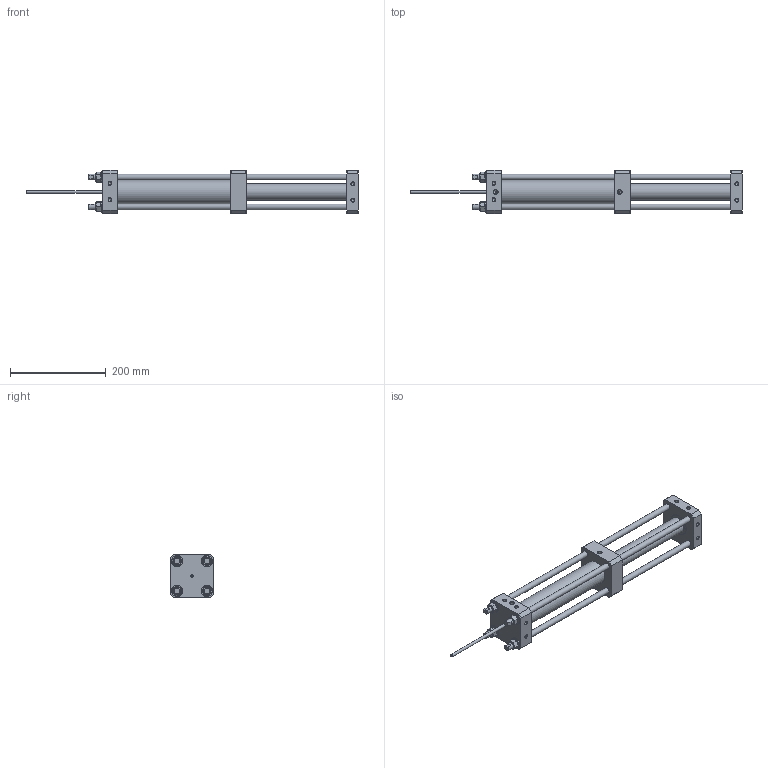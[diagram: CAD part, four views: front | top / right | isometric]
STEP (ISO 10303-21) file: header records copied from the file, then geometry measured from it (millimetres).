
FILE_DESCRIPTION(/* description */ (''),/* implementation_level */ '2;1');
FILE_NAME(/* name */ 'H13.2000.STP',/* time_stamp */ '2026-06-09T22:22:26+02:00',/* author */ ('janos'),/* organization */ (''),/* preprocessor_version */ 'ST-DEVELOPER v19.2',/* originating_system */ 'Autodesk Inventor 2024',/* authorisation */ '');
FILE_SCHEMA (('AUTOMOTIVE_DESIGN { 1 0 10303 214 3 1 1 }'));
Length unit declared in the file: millimetre
Products named in the file (1): HDÜ.BG.2000.13.1_Vereinfachen_1
Bounding box: 692 x 90 x 90 mm (x, y, z)
Volume: 1562326.7 mm3; surface area: 224534.5 mm2
Topology: 1 solids, 1 shells, 238 faces, 595 edges, 376 vertices
Faces by surface type: plane 91, cone 89, cylinder 57, torus 1
Full cylindrical faces by diameter (mm): 3 x2, 6 x1, 6.647 x16, 8.566 x2, 12 x8, 13 x4, 14.376 x1, 24 x4, 34 x1, 45 x1, 50 x1
Entity records: 7330 total; most frequent: CARTESIAN_POINT 1480, DIRECTION 1184, ORIENTED_EDGE 1158, EDGE_CURVE 579, AXIS2_PLACEMENT_3D 476, VERTEX_POINT 376, EDGE_LOOP 291, STYLED_ITEM 239
